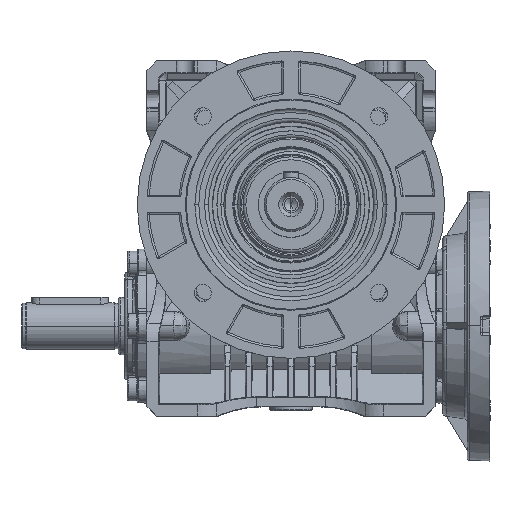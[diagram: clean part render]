
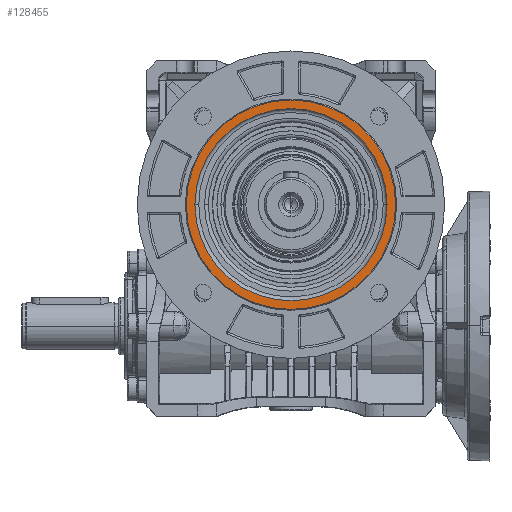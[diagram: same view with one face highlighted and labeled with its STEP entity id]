
A CAD part, top view. The second image highlights one B-rep face of the part: STEP entity #128455.
In plain terms, the highlighted planar face has unit normal (0, 0, 1).
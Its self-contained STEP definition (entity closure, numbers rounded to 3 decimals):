
#2484 = EDGE_CURVE ( 'NONE', #76193, #40025, #40084, .T. ) ;
#3614 = AXIS2_PLACEMENT_3D ( 'NONE', #138608, #25729, #70860 ) ;
#5310 = DIRECTION ( 'NONE',  ( 0., 0., 1. ) ) ;
#9765 = AXIS2_PLACEMENT_3D ( 'NONE', #125610, #5310, #103648 ) ;
#13935 = CARTESIAN_POINT ( 'NONE',  ( 55., 0., 102.5 ) ) ;
#23937 = DIRECTION ( 'NONE',  ( 1., 0., 0. ) ) ;
#25729 = DIRECTION ( 'NONE',  ( 0., 0., 1. ) ) ;
#29369 = CIRCLE ( 'NONE', #117833, 54.5 ) ;
#35011 = CARTESIAN_POINT ( 'NONE',  ( -54.5, 0., 102.5 ) ) ;
#35808 = PLANE ( 'NONE',  #92268 ) ;
#39485 = VERTEX_POINT ( 'NONE', #52380 ) ;
#40025 = VERTEX_POINT ( 'NONE', #129871 ) ;
#40084 = CIRCLE ( 'NONE', #9765, 50. ) ;
#52380 = CARTESIAN_POINT ( 'NONE',  ( 54.5, 0., 102.5 ) ) ;
#57767 = DIRECTION ( 'NONE',  ( 0., 0., 1. ) ) ;
#62543 = ORIENTED_EDGE ( 'NONE', *, *, #142713, .T. ) ;
#65785 = EDGE_CURVE ( 'NONE', #40025, #76193, #126805, .T. ) ;
#67181 = DIRECTION ( 'NONE',  ( 1., 0., 0. ) ) ;
#70860 = DIRECTION ( 'NONE',  ( 1., 0., 0. ) ) ;
#72042 = ORIENTED_EDGE ( 'NONE', *, *, #2484, .F. ) ;
#74221 = ORIENTED_EDGE ( 'NONE', *, *, #107971, .T. ) ;
#76109 = EDGE_LOOP ( 'NONE', ( #74221, #62543 ) ) ;
#76193 = VERTEX_POINT ( 'NONE', #136781 ) ;
#78801 = FACE_BOUND ( 'NONE', #102258, .T. ) ;
#80019 = CARTESIAN_POINT ( 'NONE',  ( 0., 0., 102.5 ) ) ;
#82497 = CARTESIAN_POINT ( 'NONE',  ( 0., 0., 102.5 ) ) ;
#87293 = VERTEX_POINT ( 'NONE', #35011 ) ;
#89497 = DIRECTION ( 'NONE',  ( 0., 0., 1. ) ) ;
#89705 = FACE_OUTER_BOUND ( 'NONE', #76109, .T. ) ;
#92268 = AXIS2_PLACEMENT_3D ( 'NONE', #13935, #124021, #67181 ) ;
#102258 = EDGE_LOOP ( 'NONE', ( #119711, #72042 ) ) ;
#103648 = DIRECTION ( 'NONE',  ( 1., 0., 0. ) ) ;
#107971 = EDGE_CURVE ( 'NONE', #87293, #39485, #29369, .T. ) ;
#117677 = CIRCLE ( 'NONE', #3614, 54.5 ) ;
#117833 = AXIS2_PLACEMENT_3D ( 'NONE', #80019, #89497, #23937 ) ;
#119711 = ORIENTED_EDGE ( 'NONE', *, *, #65785, .F. ) ;
#124021 = DIRECTION ( 'NONE',  ( 0., 0., 1. ) ) ;
#125610 = CARTESIAN_POINT ( 'NONE',  ( 0., 0., 102.5 ) ) ;
#126805 = CIRCLE ( 'NONE', #136009, 50. ) ;
#128455 = ADVANCED_FACE ( 'NONE', ( #89705, #78801 ), #35808, .T. ) ;
#129871 = CARTESIAN_POINT ( 'NONE',  ( 50., 0., 102.5 ) ) ;
#136009 = AXIS2_PLACEMENT_3D ( 'NONE', #82497, #57767, #136468 ) ;
#136468 = DIRECTION ( 'NONE',  ( 1., 0., 0. ) ) ;
#136781 = CARTESIAN_POINT ( 'NONE',  ( -50., 0., 102.5 ) ) ;
#138608 = CARTESIAN_POINT ( 'NONE',  ( 0., 0., 102.5 ) ) ;
#142713 = EDGE_CURVE ( 'NONE', #39485, #87293, #117677, .T. ) ;
